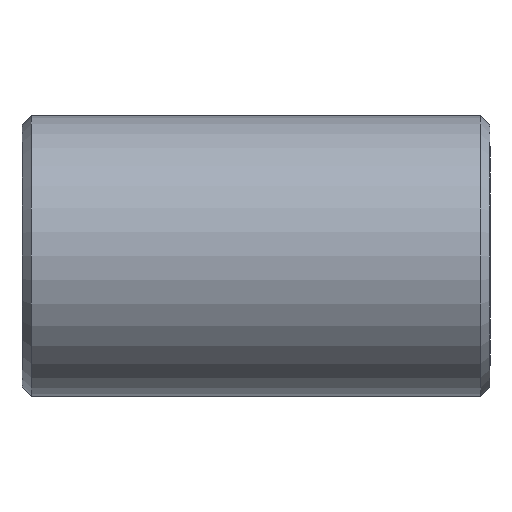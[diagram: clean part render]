
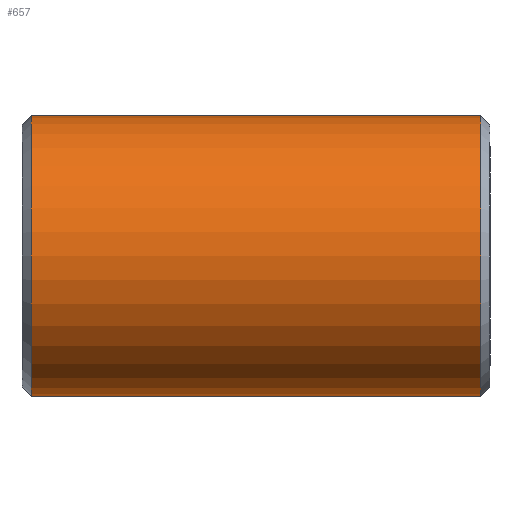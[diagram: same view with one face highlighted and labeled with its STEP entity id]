
A CAD part, left-side view. The second image highlights one B-rep face of the part: STEP entity #657.
In plain terms, the highlighted cylindrical face has radius 7.5 mm (diameter 15 mm), a partial arc.
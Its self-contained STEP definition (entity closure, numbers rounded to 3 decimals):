
#34 = CARTESIAN_POINT ( 'NONE',  ( 0., 1., 0. ) ) ;
#64 = EDGE_LOOP ( 'NONE', ( #522, #681, #1353, #974 ) ) ;
#73 = DIRECTION ( 'NONE',  ( 0., 1., 0. ) ) ;
#91 = VERTEX_POINT ( 'NONE', #775 ) ;
#93 = EDGE_CURVE ( 'NONE', #1094, #172, #950, .T. ) ;
#119 = DIRECTION ( 'NONE',  ( 0., 1., 0. ) ) ;
#172 = VERTEX_POINT ( 'NONE', #469 ) ;
#202 = DIRECTION ( 'NONE',  ( 0., 0., 1. ) ) ;
#248 = DIRECTION ( 'NONE',  ( 0., 1., 0. ) ) ;
#316 = AXIS2_PLACEMENT_3D ( 'NONE', #1105, #248, #1192 ) ;
#363 = AXIS2_PLACEMENT_3D ( 'NONE', #1368, #119, #202 ) ;
#394 = LINE ( 'NONE', #1231, #1262 ) ;
#401 = VERTEX_POINT ( 'NONE', #1143 ) ;
#469 = CARTESIAN_POINT ( 'NONE',  ( 0., 1., -7.5 ) ) ;
#471 = DIRECTION ( 'NONE',  ( 0., 1., 0. ) ) ;
#522 = ORIENTED_EDGE ( 'NONE', *, *, #1006, .F. ) ;
#580 = CARTESIAN_POINT ( 'NONE',  ( 0., 1., 7.5 ) ) ;
#657 = ADVANCED_FACE ( 'NONE', ( #1106 ), #884, .T. ) ;
#681 = ORIENTED_EDGE ( 'NONE', *, *, #1020, .T. ) ;
#689 = LINE ( 'NONE', #1197, #1326 ) ;
#775 = CARTESIAN_POINT ( 'NONE',  ( 0., -23., 7.5 ) ) ;
#796 = AXIS2_PLACEMENT_3D ( 'NONE', #34, #985, #975 ) ;
#884 = CYLINDRICAL_SURFACE ( 'NONE', #363, 7.5 ) ;
#950 = CIRCLE ( 'NONE', #796, 7.5 ) ;
#974 = ORIENTED_EDGE ( 'NONE', *, *, #93, .T. ) ;
#975 = DIRECTION ( 'NONE',  ( 0., 0., 1. ) ) ;
#985 = DIRECTION ( 'NONE',  ( 0., -1., 0. ) ) ;
#988 = CIRCLE ( 'NONE', #316, 7.5 ) ;
#1006 = EDGE_CURVE ( 'NONE', #401, #172, #689, .T. ) ;
#1020 = EDGE_CURVE ( 'NONE', #401, #91, #988, .T. ) ;
#1094 = VERTEX_POINT ( 'NONE', #580 ) ;
#1105 = CARTESIAN_POINT ( 'NONE',  ( 0., -23., 0. ) ) ;
#1106 = FACE_OUTER_BOUND ( 'NONE', #64, .T. ) ;
#1143 = CARTESIAN_POINT ( 'NONE',  ( 0., -23., -7.5 ) ) ;
#1192 = DIRECTION ( 'NONE',  ( 0., 0., -1. ) ) ;
#1197 = CARTESIAN_POINT ( 'NONE',  ( 0., 65.513, -7.5 ) ) ;
#1231 = CARTESIAN_POINT ( 'NONE',  ( 0., 65.513, 7.5 ) ) ;
#1262 = VECTOR ( 'NONE', #73, 1000. ) ;
#1289 = EDGE_CURVE ( 'NONE', #91, #1094, #394, .T. ) ;
#1326 = VECTOR ( 'NONE', #471, 1000. ) ;
#1353 = ORIENTED_EDGE ( 'NONE', *, *, #1289, .T. ) ;
#1368 = CARTESIAN_POINT ( 'NONE',  ( 0., 65.513, 0. ) ) ;
